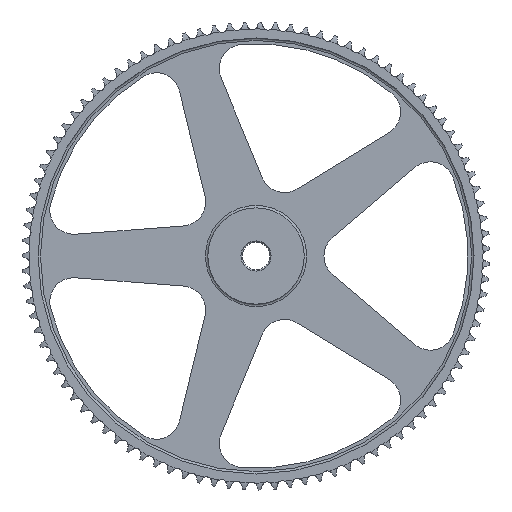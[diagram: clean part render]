
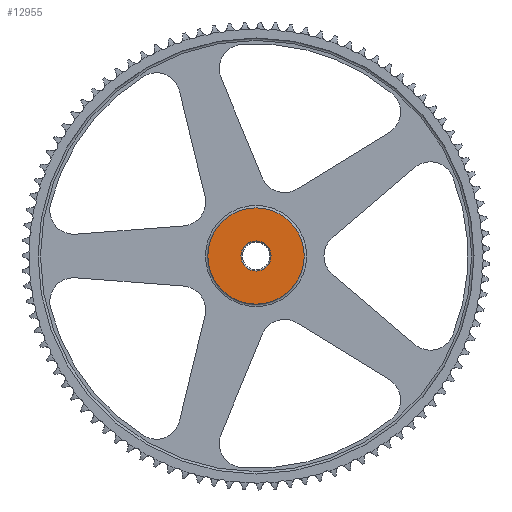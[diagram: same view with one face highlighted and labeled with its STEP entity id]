
A CAD part, left-side view. The second image highlights one B-rep face of the part: STEP entity #12955.
In plain terms, the highlighted planar face has unit normal (-1, 0, 0).
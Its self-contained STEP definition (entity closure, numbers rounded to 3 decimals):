
#241=FACE_BOUND('',#2236,.T.);
#282=PLANE('',#14249);
#929=CIRCLE('',#14248,40.);
#930=CIRCLE('',#14250,12.5);
#1576=FACE_OUTER_BOUND('',#2235,.T.);
#2235=EDGE_LOOP('',(#11657));
#2236=EDGE_LOOP('',(#11658));
#5610=VERTEX_POINT('',#26086);
#5611=VERTEX_POINT('',#26089);
#7704=EDGE_CURVE('',#5610,#5610,#929,.T.);
#7705=EDGE_CURVE('',#5611,#5611,#930,.T.);
#11657=ORIENTED_EDGE('',*,*,#7704,.T.);
#11658=ORIENTED_EDGE('',*,*,#7705,.F.);
#12955=ADVANCED_FACE('',(#1576,#241),#282,.T.);
#14248=AXIS2_PLACEMENT_3D('',#26087,#17290,#17291);
#14249=AXIS2_PLACEMENT_3D('',#26088,#17292,#17293);
#14250=AXIS2_PLACEMENT_3D('',#26090,#17294,#17295);
#17290=DIRECTION('center_axis',(-1.,0.,0.));
#17291=DIRECTION('ref_axis',(0.,0.,1.));
#17292=DIRECTION('center_axis',(-1.,0.,0.));
#17293=DIRECTION('ref_axis',(0.,0.,1.));
#17294=DIRECTION('center_axis',(-1.,0.,0.));
#17295=DIRECTION('ref_axis',(0.,0.,1.));
#26086=CARTESIAN_POINT('',(-8.05,158.677,0.));
#26087=CARTESIAN_POINT('Origin',(-8.05,198.677,0.));
#26088=CARTESIAN_POINT('Origin',(-8.05,186.177,0.));
#26089=CARTESIAN_POINT('',(-8.05,186.177,0.));
#26090=CARTESIAN_POINT('Origin',(-8.05,198.677,0.));
